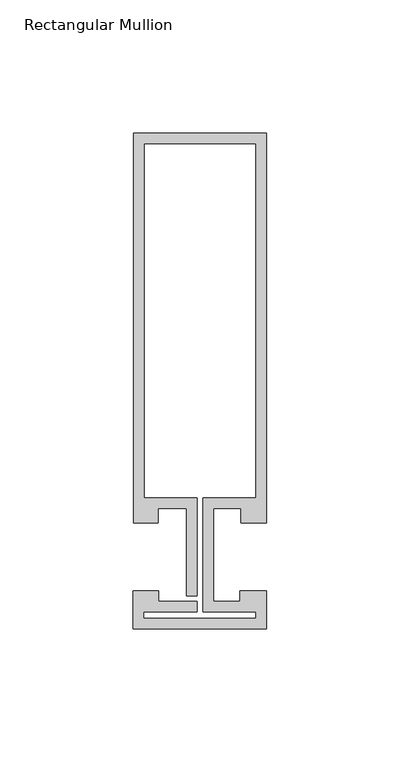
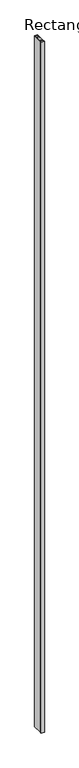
"""IFC4 building model written with IfcOpenShell, lengths in millimetres: member geometry, Rectangular Mullion : Reynaers_CW-50_Transom-Transom_146.5mm_Facecap-02A."""

from ifc_helpers import new_model, si_unit, frame, origin, place, context, project, spatial, polyline, outline, extrude, source, transform, mapped, element, save


def rectangular_mullion_fb1c17d4(model_context):
    return source(origin(), model_context, "Body", "SweptSolid", [
        extrude(outline(polyline([(25.1995941, -12.7331291), (25.1995941, -27.0331291), (-24.994845, -27.0331291), (-24.994845, -12.7331291), (-15.2996495, -12.7331291), (-15.2996495, -16.7331291), (-0.9004059, -16.7331291), (-0.9004059, -20.7331291), (-20.994845, -20.7331291), (-20.994845, -23.0331291), (21.1995941, -23.0331291), (21.1995941, -20.7331291), (1.2995941, -20.7331291), (1.2995941, 22.1331291), (21.1995941, 22.1331291), (21.1995941, 155.2331291), (-20.8004059, 155.2331291), (-20.8004059, 22.1331291), (-0.9004059, 22.1331291), (-0.9004059, -14.7331291), (-4.9004059, -14.7331291), (-4.9004059, 18.1331291), (-15.499, 18.1331291), (-15.499, 12.7331291), (-24.8004059, 12.7331291), (-24.8004059, 159.2331291), (25.1995941, 159.2331291), (25.1995941, 12.7331291), (15.499, 12.7331291), (15.499, 18.1331291), (5.2995941, 18.1331291), (5.2995941, -16.7331291), (15.2996495, -16.7331291), (15.2996495, -12.7331291), (25.1995941, -12.7331291)])), frame((0.0, 0.0, -12000.0), z_axis=(0.0, 0.0, 1.0), x_axis=(1.0, 0.0, 0.0)), (0.0, 0.0, 1.0), 12000.0),
    ])


if __name__ == "__main__":
    model = new_model("IFC4")
    model_context = context("Model", 3, world=origin())
    ifc_project = project(units=[si_unit("LENGTHUNIT", "METRE", prefix="MILLI")], contexts=[model_context])
    site = spatial("IfcSite", under=ifc_project)
    building = spatial("IfcBuilding", under=site)
    placement = place(None, origin())
    rectangular_mullion_shape = rectangular_mullion_fb1c17d4(model_context)
    element("IfcMember", 1, ObjectType="Rectangular Mullion : Reynaers_CW-50_Transom-Transom_146.5mm_Facecap-02A", at=placement, inside=building, context=model_context, shape_type="MappedRepresentation", body=[
        mapped(rectangular_mullion_shape, transform((0.0, 0.0, 0.0), x_axis=(1.0, 0.0, 0.0), y_axis=(0.0, 1.0, 0.0), z_axis=(0.0, 0.0, 1.0))),
    ])
    save(model, "model.ifc")
